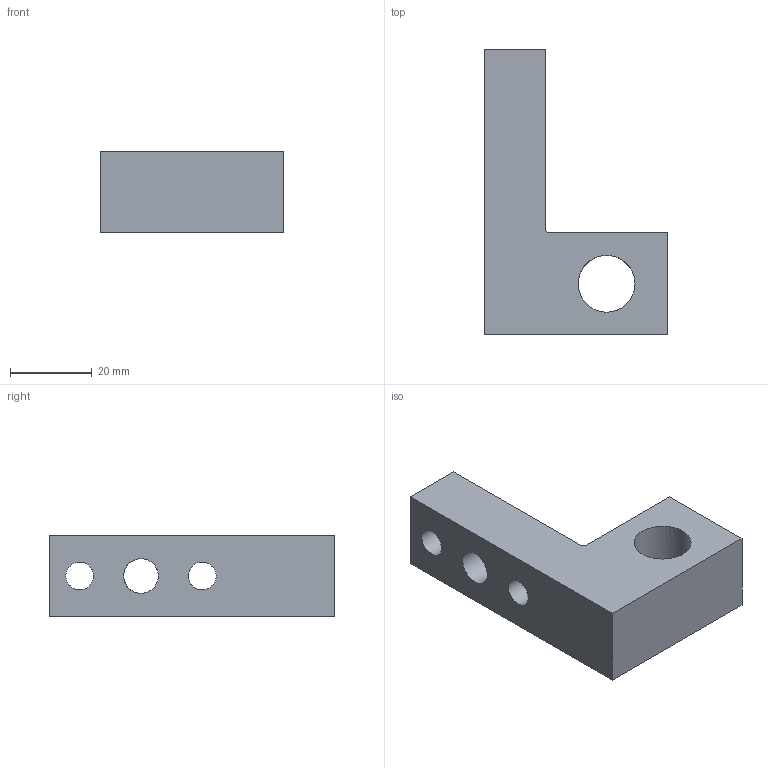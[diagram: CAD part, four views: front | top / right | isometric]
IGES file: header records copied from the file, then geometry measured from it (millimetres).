
Global section: file name: 03.09; native system: Autodesk Inventor 2014; preprocessor: unknown; author: APto/ms; date: 20150401.090413; units: millimetre
Bounding box: 45 x 70 x 20 mm (x, y, z)
Volume: 31020.1 mm3; surface area: 9545.4 mm2
Topology: 1 solids, 1 shells, 13 faces, 37 edges, 26 vertices
Faces by surface type: bspline 13
